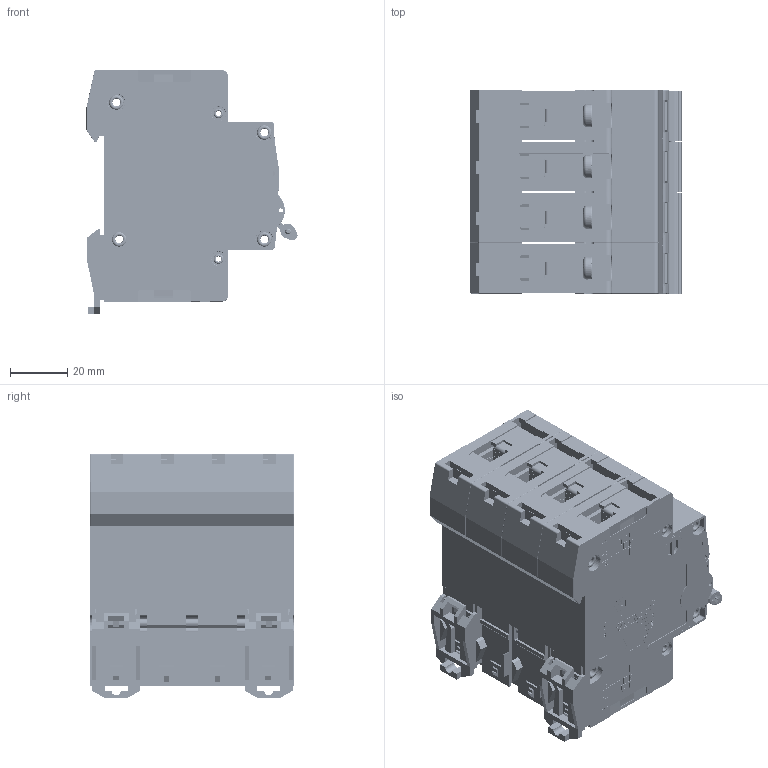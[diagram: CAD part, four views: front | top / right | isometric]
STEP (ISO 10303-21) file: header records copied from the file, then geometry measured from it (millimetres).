
FILE_DESCRIPTION (( 'STEP AP214' ), '1' );
FILE_NAME ('TDZ-4C-13.STEP', '2026-04-30T13:18:22', ( '' ), ( '' ), 'SwSTEP 2.0', 'SolidWorks 2025', '' );
FILE_SCHEMA (( 'AUTOMOTIVE_DESIGN' ));
Length unit declared in the file: millimetre
Products named in the file (1): TDZ-4C-13
Bounding box: 73.85 x 71.2 x 85.3 mm (x, y, z)
Volume: 118554.1 mm3; surface area: 187896.2 mm2
Topology: 56 solids, 56 shells, 15653 faces, 44145 edges, 29293 vertices
Faces by surface type: plane 9849, cylinder 3612, bspline 1650, torus 356, cone 186
Entity records: 791681 total; most frequent: CARTESIAN_POINT 230880, ORIENTED_EDGE 88194, DIRECTION 73908, EDGE_CURVE 44097, LINE 31026, VECTOR 31026, VERTEX_POINT 29293, AXIS2_PLACEMENT_3D 21441
